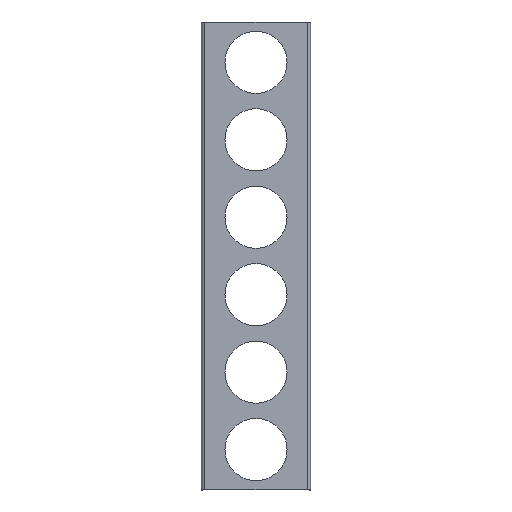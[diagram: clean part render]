
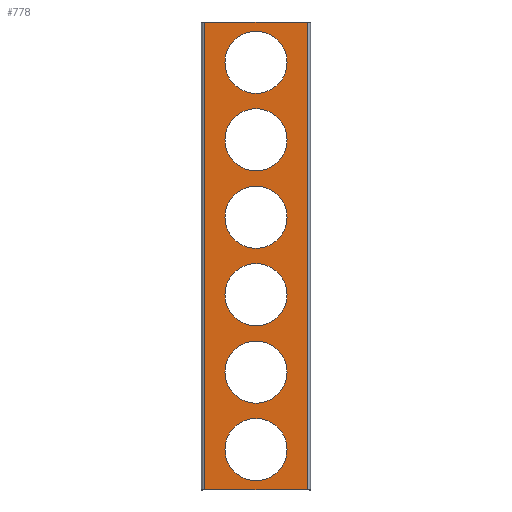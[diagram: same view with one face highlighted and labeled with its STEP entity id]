
A CAD part, top view. The second image highlights one B-rep face of the part: STEP entity #778.
In plain terms, the highlighted planar face has unit normal (0, 0, 1).
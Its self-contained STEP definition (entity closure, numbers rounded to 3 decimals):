
#78 = CARTESIAN_POINT ( 'NONE',  ( 28.5, 108., 40. ) ) ;
#88 = CARTESIAN_POINT ( 'NONE',  ( 47., 429., 40. ) ) ;
#92 = VERTEX_POINT ( 'NONE', #174 ) ;
#100 = CARTESIAN_POINT ( 'NONE',  ( -28.5, 250., 40. ) ) ;
#101 = CARTESIAN_POINT ( 'NONE',  ( -28.5, 392., 40. ) ) ;
#110 = CARTESIAN_POINT ( 'NONE',  ( -28.5, 37., 40. ) ) ;
#113 = CARTESIAN_POINT ( 'NONE',  ( 28.5, 37., 40. ) ) ;
#117 = CARTESIAN_POINT ( 'NONE',  ( 28.5, 179., 40. ) ) ;
#118 = CARTESIAN_POINT ( 'NONE',  ( -28.5, 321., 40. ) ) ;
#124 = DIRECTION ( 'NONE',  ( -1., 0., 0. ) ) ;
#125 = CARTESIAN_POINT ( 'NONE',  ( -47., 0., 40. ) ) ;
#128 = DIRECTION ( 'NONE',  ( 1., 0., 0. ) ) ;
#129 = DIRECTION ( 'NONE',  ( 0., 0., -1. ) ) ;
#131 = CARTESIAN_POINT ( 'NONE',  ( 0., 392., 40. ) ) ;
#136 = VERTEX_POINT ( 'NONE', #158 ) ;
#137 = DIRECTION ( 'NONE',  ( 1., 0., 0. ) ) ;
#138 = DIRECTION ( 'NONE',  ( 0., 0., -1. ) ) ;
#140 = CARTESIAN_POINT ( 'NONE',  ( -47., 429., 40. ) ) ;
#144 = CARTESIAN_POINT ( 'NONE',  ( -28.5, 179., 40. ) ) ;
#146 = CARTESIAN_POINT ( 'NONE',  ( 28.5, 392., 40. ) ) ;
#149 = CARTESIAN_POINT ( 'NONE',  ( 0., 321., 40. ) ) ;
#152 = VERTEX_POINT ( 'NONE', #162 ) ;
#158 = CARTESIAN_POINT ( 'NONE',  ( 28.5, 250., 40. ) ) ;
#162 = CARTESIAN_POINT ( 'NONE',  ( -28.5, 108., 40. ) ) ;
#166 = CARTESIAN_POINT ( 'NONE',  ( 47., 0., 40. ) ) ;
#167 = CARTESIAN_POINT ( 'NONE',  ( -47., 0., 40. ) ) ;
#174 = CARTESIAN_POINT ( 'NONE',  ( 28.5, 321., 40. ) ) ;
#177 = VERTEX_POINT ( 'NONE', #166 ) ;
#180 = VERTEX_POINT ( 'NONE', #167 ) ;
#213 = DIRECTION ( 'NONE',  ( 1., 0., 0. ) ) ;
#214 = DIRECTION ( 'NONE',  ( 0., 0., -1. ) ) ;
#215 = CARTESIAN_POINT ( 'NONE',  ( 0., 108., 40. ) ) ;
#217 = VERTEX_POINT ( 'NONE', #146 ) ;
#218 = VERTEX_POINT ( 'NONE', #144 ) ;
#219 = VERTEX_POINT ( 'NONE', #140 ) ;
#230 = DIRECTION ( 'NONE',  ( 1., 0., 0. ) ) ;
#231 = DIRECTION ( 'NONE',  ( 0., 0., -1. ) ) ;
#234 = DIRECTION ( 'NONE',  ( 1., 0., 0. ) ) ;
#235 = DIRECTION ( 'NONE',  ( 0., 0., -1. ) ) ;
#237 = CARTESIAN_POINT ( 'NONE',  ( 0., 37., 40. ) ) ;
#240 = CARTESIAN_POINT ( 'NONE',  ( 0., 179., 40. ) ) ;
#244 = DIRECTION ( 'NONE',  ( 1., 0., 0. ) ) ;
#246 = DIRECTION ( 'NONE',  ( 0., 0., -1. ) ) ;
#247 = VERTEX_POINT ( 'NONE', #118 ) ;
#251 = VERTEX_POINT ( 'NONE', #117 ) ;
#253 = DIRECTION ( 'NONE',  ( 1., 0., 0. ) ) ;
#258 = VERTEX_POINT ( 'NONE', #113 ) ;
#262 = CARTESIAN_POINT ( 'NONE',  ( 1., 429., 40. ) ) ;
#267 = DIRECTION ( 'NONE',  ( 0., 1., 0. ) ) ;
#268 = CARTESIAN_POINT ( 'NONE',  ( -47., 479., 40. ) ) ;
#274 = CARTESIAN_POINT ( 'NONE',  ( 0., 250., 40. ) ) ;
#277 = DIRECTION ( 'NONE',  ( 1., 0., 0. ) ) ;
#278 = DIRECTION ( 'NONE',  ( 0., 0., -1. ) ) ;
#279 = CARTESIAN_POINT ( 'NONE',  ( 0., 108., 40. ) ) ;
#280 = DIRECTION ( 'NONE',  ( 1., 0., 0. ) ) ;
#281 = DIRECTION ( 'NONE',  ( 0., 0., -1. ) ) ;
#282 = CARTESIAN_POINT ( 'NONE',  ( 0., 250., 40. ) ) ;
#283 = DIRECTION ( 'NONE',  ( 1., 0., 0. ) ) ;
#284 = DIRECTION ( 'NONE',  ( 0., 0., -1. ) ) ;
#285 = VERTEX_POINT ( 'NONE', #110 ) ;
#286 = CARTESIAN_POINT ( 'NONE',  ( 0., 392., 40. ) ) ;
#287 = DIRECTION ( 'NONE',  ( 1., 0., 0. ) ) ;
#288 = DIRECTION ( 'NONE',  ( 0., 0., -1. ) ) ;
#289 = CARTESIAN_POINT ( 'NONE',  ( 0., 321., 40. ) ) ;
#290 = DIRECTION ( 'NONE',  ( 1., 0., 0. ) ) ;
#291 = DIRECTION ( 'NONE',  ( 0., 0., -1. ) ) ;
#299 = DIRECTION ( 'NONE',  ( 1., 0., 0. ) ) ;
#300 = DIRECTION ( 'NONE',  ( 0., 0., -1. ) ) ;
#301 = CARTESIAN_POINT ( 'NONE',  ( 0., 179., 40. ) ) ;
#304 = DIRECTION ( 'NONE',  ( 0., -1., 0. ) ) ;
#305 = CARTESIAN_POINT ( 'NONE',  ( 0., 37., 40. ) ) ;
#312 = VERTEX_POINT ( 'NONE', #101 ) ;
#314 = CARTESIAN_POINT ( 'NONE',  ( 47., 0., 40. ) ) ;
#327 = VERTEX_POINT ( 'NONE', #100 ) ;
#355 = VERTEX_POINT ( 'NONE', #88 ) ;
#356 = DIRECTION ( 'NONE',  ( 1., 0., 0. ) ) ;
#357 = DIRECTION ( 'NONE',  ( 0., 0., 1. ) ) ;
#358 = PLANE ( 'NONE',  #838 ) ;
#360 = CARTESIAN_POINT ( 'NONE',  ( 2., 239.5, 40. ) ) ;
#378 = VERTEX_POINT ( 'NONE', #78 ) ;
#402 = ORIENTED_EDGE ( 'NONE', *, *, #885, .T. ) ;
#404 = ORIENTED_EDGE ( 'NONE', *, *, #912, .T. ) ;
#405 = EDGE_LOOP ( 'NONE', ( #655, #475 ) ) ;
#408 = EDGE_LOOP ( 'NONE', ( #529, #562 ) ) ;
#430 = ORIENTED_EDGE ( 'NONE', *, *, #878, .F. ) ;
#438 = EDGE_LOOP ( 'NONE', ( #667, #665 ) ) ;
#444 = ORIENTED_EDGE ( 'NONE', *, *, #856, .T. ) ;
#470 = EDGE_LOOP ( 'NONE', ( #430, #565, #567, #569 ) ) ;
#474 = EDGE_LOOP ( 'NONE', ( #402, #560 ) ) ;
#475 = ORIENTED_EDGE ( 'NONE', *, *, #858, .T. ) ;
#481 = EDGE_LOOP ( 'NONE', ( #494, #689 ) ) ;
#483 = EDGE_LOOP ( 'NONE', ( #404, #444 ) ) ;
#494 = ORIENTED_EDGE ( 'NONE', *, *, #886, .T. ) ;
#529 = ORIENTED_EDGE ( 'NONE', *, *, #882, .T. ) ;
#535 = CIRCLE ( 'NONE', #816, 28.5 ) ;
#537 = CIRCLE ( 'NONE', #810, 28.5 ) ;
#542 = VECTOR ( 'NONE', #124, 1000. ) ;
#546 = LINE ( 'NONE', #125, #542 ) ;
#560 = ORIENTED_EDGE ( 'NONE', *, *, #801, .T. ) ;
#562 = ORIENTED_EDGE ( 'NONE', *, *, #860, .T. ) ;
#565 = ORIENTED_EDGE ( 'NONE', *, *, #866, .F. ) ;
#567 = ORIENTED_EDGE ( 'NONE', *, *, #916, .F. ) ;
#569 = ORIENTED_EDGE ( 'NONE', *, *, #799, .F. ) ;
#582 = CIRCLE ( 'NONE', #823, 28.5 ) ;
#595 = CIRCLE ( 'NONE', #825, 28.5 ) ;
#597 = CIRCLE ( 'NONE', #822, 28.5 ) ;
#600 = CIRCLE ( 'NONE', #827, 28.5 ) ;
#605 = LINE ( 'NONE', #262, #618 ) ;
#618 = VECTOR ( 'NONE', #253, 1000. ) ;
#619 = LINE ( 'NONE', #268, #630 ) ;
#621 = CIRCLE ( 'NONE', #829, 28.5 ) ;
#623 = CIRCLE ( 'NONE', #830, 28.5 ) ;
#624 = CIRCLE ( 'NONE', #832, 28.5 ) ;
#625 = CIRCLE ( 'NONE', #833, 28.5 ) ;
#626 = CIRCLE ( 'NONE', #831, 28.5 ) ;
#630 = VECTOR ( 'NONE', #267, 1000. ) ;
#631 = CIRCLE ( 'NONE', #837, 28.5 ) ;
#636 = LINE ( 'NONE', #314, #641 ) ;
#641 = VECTOR ( 'NONE', #304, 1000. ) ;
#655 = ORIENTED_EDGE ( 'NONE', *, *, #915, .T. ) ;
#665 = ORIENTED_EDGE ( 'NONE', *, *, #862, .T. ) ;
#667 = ORIENTED_EDGE ( 'NONE', *, *, #891, .T. ) ;
#678 = FACE_BOUND ( 'NONE', #483, .T. ) ;
#681 = FACE_BOUND ( 'NONE', #405, .T. ) ;
#682 = FACE_OUTER_BOUND ( 'NONE', #470, .T. ) ;
#684 = FACE_BOUND ( 'NONE', #408, .T. ) ;
#686 = FACE_BOUND ( 'NONE', #474, .T. ) ;
#687 = FACE_BOUND ( 'NONE', #438, .T. ) ;
#688 = FACE_BOUND ( 'NONE', #481, .T. ) ;
#689 = ORIENTED_EDGE ( 'NONE', *, *, #855, .T. ) ;
#778 = ADVANCED_FACE ( 'NONE', ( #687, #684, #681, #678, #688, #686, #682 ), #358, .T. ) ;
#799 = EDGE_CURVE ( 'NONE', #355, #177, #636, .T. ) ;
#801 = EDGE_CURVE ( 'NONE', #285, #258, #631, .T. ) ;
#810 = AXIS2_PLACEMENT_3D ( 'NONE', #149, #138, #137 ) ;
#816 = AXIS2_PLACEMENT_3D ( 'NONE', #131, #129, #128 ) ;
#822 = AXIS2_PLACEMENT_3D ( 'NONE', #237, #235, #234 ) ;
#823 = AXIS2_PLACEMENT_3D ( 'NONE', #215, #214, #213 ) ;
#825 = AXIS2_PLACEMENT_3D ( 'NONE', #240, #231, #230 ) ;
#827 = AXIS2_PLACEMENT_3D ( 'NONE', #274, #246, #244 ) ;
#829 = AXIS2_PLACEMENT_3D ( 'NONE', #279, #278, #277 ) ;
#830 = AXIS2_PLACEMENT_3D ( 'NONE', #282, #281, #280 ) ;
#831 = AXIS2_PLACEMENT_3D ( 'NONE', #301, #291, #290 ) ;
#832 = AXIS2_PLACEMENT_3D ( 'NONE', #286, #284, #283 ) ;
#833 = AXIS2_PLACEMENT_3D ( 'NONE', #289, #288, #287 ) ;
#837 = AXIS2_PLACEMENT_3D ( 'NONE', #305, #300, #299 ) ;
#838 = AXIS2_PLACEMENT_3D ( 'NONE', #360, #357, #356 ) ;
#855 = EDGE_CURVE ( 'NONE', #218, #251, #626, .T. ) ;
#856 = EDGE_CURVE ( 'NONE', #247, #92, #625, .T. ) ;
#858 = EDGE_CURVE ( 'NONE', #312, #217, #624, .T. ) ;
#860 = EDGE_CURVE ( 'NONE', #327, #136, #623, .T. ) ;
#862 = EDGE_CURVE ( 'NONE', #152, #378, #621, .T. ) ;
#866 = EDGE_CURVE ( 'NONE', #180, #219, #619, .T. ) ;
#878 = EDGE_CURVE ( 'NONE', #219, #355, #605, .T. ) ;
#882 = EDGE_CURVE ( 'NONE', #136, #327, #600, .T. ) ;
#885 = EDGE_CURVE ( 'NONE', #258, #285, #597, .T. ) ;
#886 = EDGE_CURVE ( 'NONE', #251, #218, #595, .T. ) ;
#891 = EDGE_CURVE ( 'NONE', #378, #152, #582, .T. ) ;
#912 = EDGE_CURVE ( 'NONE', #92, #247, #537, .T. ) ;
#915 = EDGE_CURVE ( 'NONE', #217, #312, #535, .T. ) ;
#916 = EDGE_CURVE ( 'NONE', #177, #180, #546, .T. ) ;
